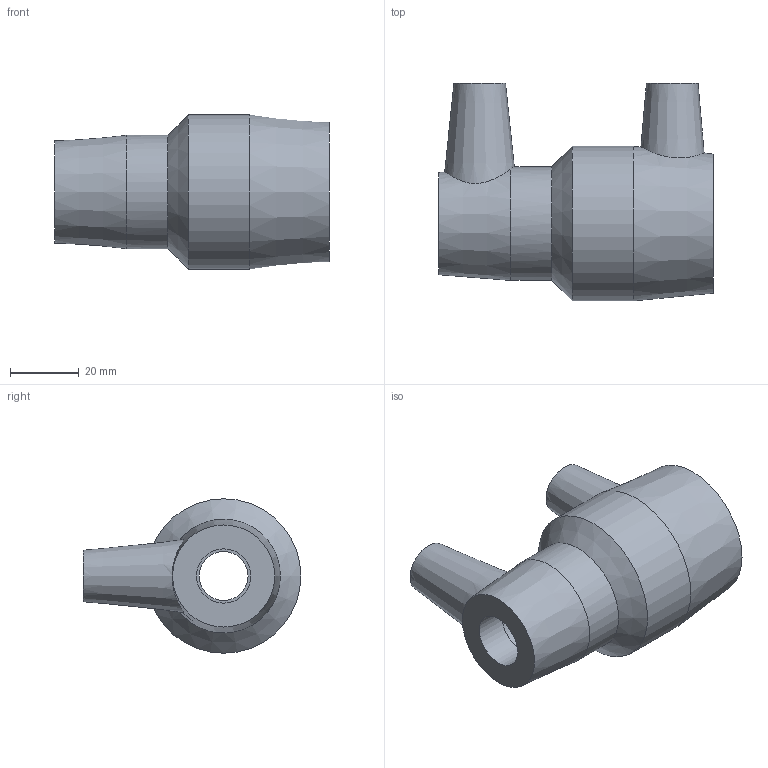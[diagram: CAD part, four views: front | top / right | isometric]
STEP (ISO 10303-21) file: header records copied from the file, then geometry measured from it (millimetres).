
FILE_DESCRIPTION(/* description */ ('PLASSON ASTM REDUCING COUPLER 1''''CTS-1/2''''CTS'),/* implementation_level */ '2;1');
FILE_NAME(/* name */ 'C:\Dropbox\KIMPROJECTS-Inventor 2019\99-16-3568-Processing Inch\ASTM ElectroFusion 2021\5911\5911UU03010005.ipt.stp',/* time_stamp */ '2021-08-30T09:50:18+03:00',/* author */ ('KIM'),/* organization */ (''),/* preprocessor_version */ 'ST-DEVELOPER v17.2',/* originating_system */ 'Autodesk Inventor 2019',/* authorisation */ '');
FILE_SCHEMA (('AUTOMOTIVE_DESIGN { 1 0 10303 214 3 1 1 }'));
Length unit declared in the file: inch
Products named in the file (1): 5911UU03010005
Bounding box: 80.01 x 63.37 x 44.96 mm (x, y, z)
Volume: 70344.8 mm3; surface area: 20748.8 mm2
Topology: 1 solids, 1 shells, 32 faces, 75 edges, 54 vertices
Faces by surface type: plane 12, cylinder 11, cone 9
Full cylindrical faces by diameter (mm): 4 x2, 10 x2, 14.22 x1, 15.8 x2, 28.45 x2, 33.02 x1, 44.958 x1
Entity records: 1082 total; most frequent: CARTESIAN_POINT 244, DIRECTION 185, ORIENTED_EDGE 150, AXIS2_PLACEMENT_3D 83, EDGE_CURVE 75, VERTEX_POINT 54, CIRCLE 50, EDGE_LOOP 43
